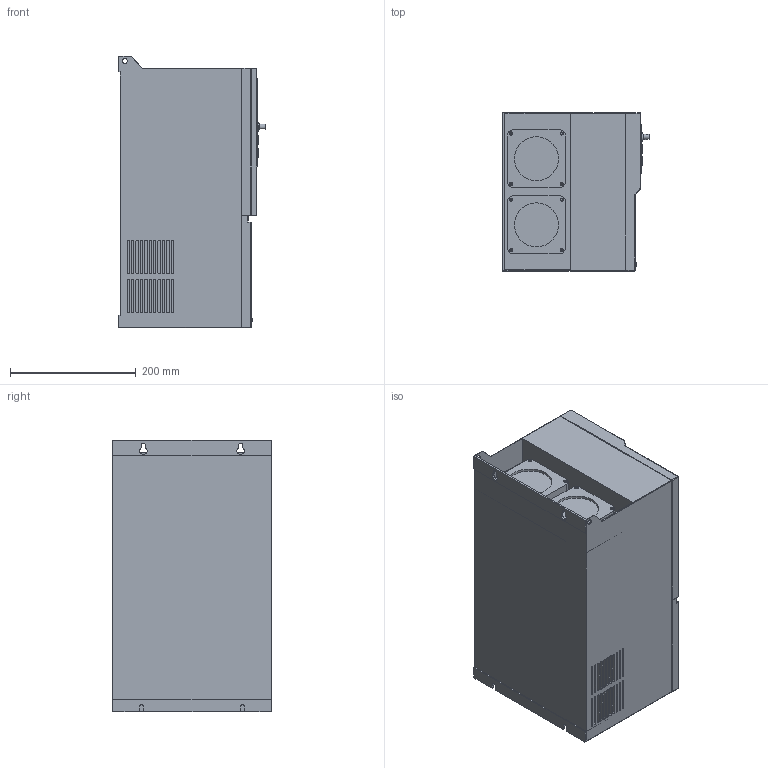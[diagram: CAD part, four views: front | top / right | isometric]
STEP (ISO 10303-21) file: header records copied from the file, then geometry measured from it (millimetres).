
FILE_DESCRIPTION(('STEP AP214'), '1');
FILE_NAME('Ïðåîáðàçîâàòåëü ÷àñòîòû _ MCI-G37-P45-4', '', ('UNSPECIFIED'), ('UNSPECIFIED'), 'C3D Converter', 'C3D Toolkit', '');
FILE_SCHEMA(('AUTOMOTIVE_DESIGN { 1 0 10303 214 3 1 1}'));
Length unit declared in the file: millimetre
Products named in the file (4): MCI-G37/P45-4; MCI-G30/P37-4; MCI-MF-B; MCI-KP-B
Assembly tree (3 placements, depth 2):
  MCI-G37/P45-4
    MCI-G30/P37-4
    MCI-MF-B
    MCI-KP-B
Bounding box: 232.47 x 251 x 431 mm (x, y, z)
Volume: 20322712.8 mm3; surface area: 740045.6 mm2
Topology: 3 solids, 7 shells, 916 faces, 2348 edges, 1538 vertices
Faces by surface type: plane 657, cylinder 223, torus 18, sphere 6, cone 6, bspline 4, revolution 2
Full cylindrical faces by diameter (mm): 1.7 x2, 2 x4, 2.7 x4, 5 x8, 5.5 x8, 6 x4, 7.8 x2, 12 x1, 15.9 x1, 21.9 x1, 39.8 x1, 70 x2
Entity records: 32139 total; most frequent: CARTESIAN_POINT 5841, ORIENTED_EDGE 4556, DIRECTION 4554, EDGE_CURVE 2278, LINE 1796, VECTOR 1796, VERTEX_POINT 1538, AXIS2_PLACEMENT_3D 1378
